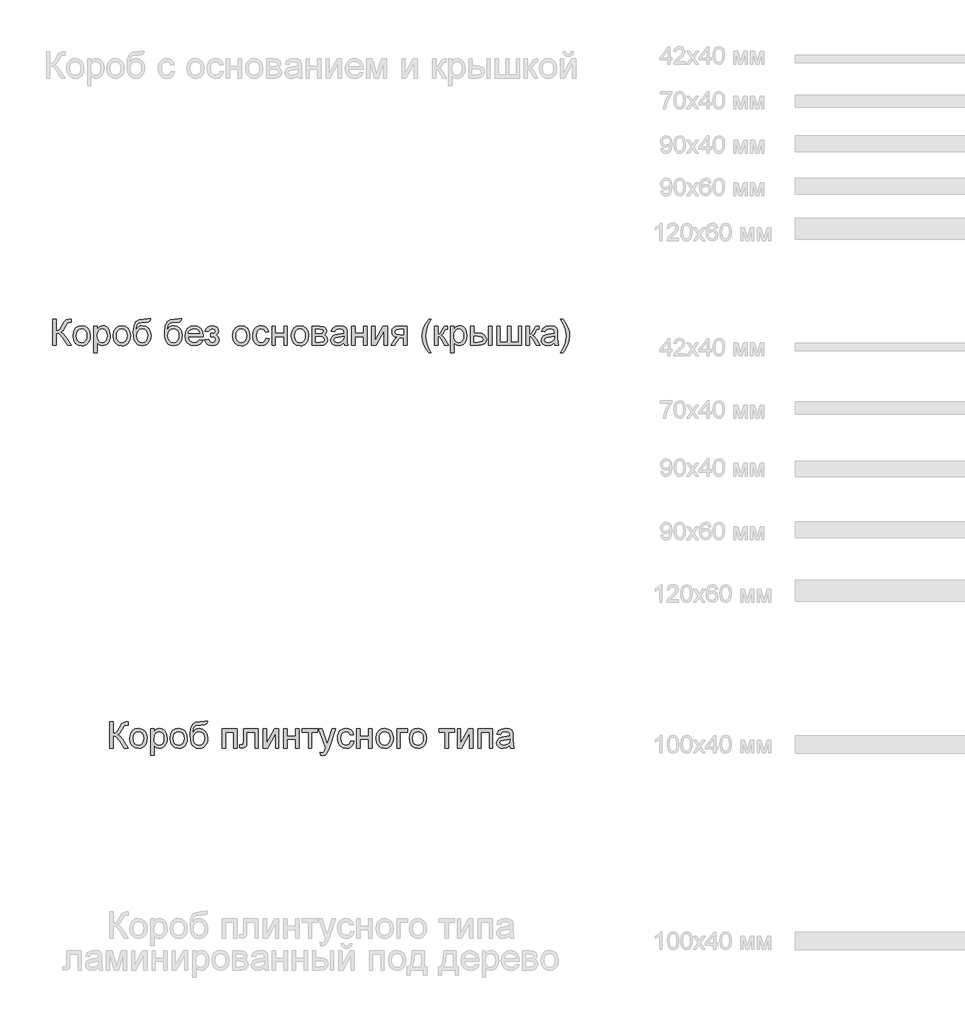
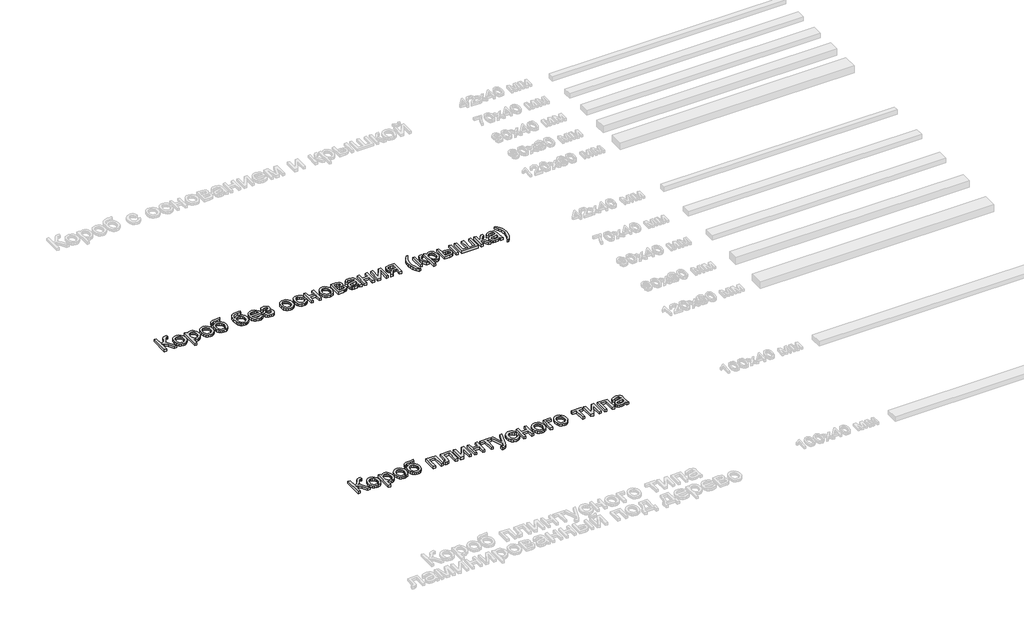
# One storey, part 5 of 21: 2 proxies.
"""IFC4 building model written with IfcOpenShell, lengths in millimetres."""

from ifc_helpers import new_model, si_unit, origin, origin_with_axes, place, context, project, spatial, polyline, outline, extrude, element, save

model = new_model("IFC4")

# Units and contexts
model_context = context("Model", 3, world=origin())
ifc_project = project(units=[si_unit("LENGTHUNIT", "METRE", prefix="MILLI")], contexts=[model_context])

# Site, building, storey
site = spatial("IfcSite", under=ifc_project)
building = spatial("IfcBuilding", under=site)
storey = spatial("IfcBuildingStorey", under=building, Name="Этаж 01", Elevation=0.0)

# Proxies
placement = place(None, origin())
element("IfcBuildingElementProxy", 1, Name="150 мм Arial", ObjectType="150 мм Arial", at=placement, inside=storey, context=model_context, shape_type="SweptSolid", body=[
    extrude(outline(polyline([(-2762.6946208, -3897.5845197), (-2743.8590626, -3897.5845197), (-2743.8590626, -3963.5089733), (-2731.1073529, -3962.262773), (-2722.7978184, -3958.5241722), (-2708.1009327, -3933.3058615), (-2697.7082663, -3912.2446172), (-2685.9360425, -3901.8151627), (-2669.1054412, -3897.5845197), (-2656.7446061, -3897.8052489), (-2656.7446061, -3916.6408071), (-2660.9016727, -3916.5304425), (-2665.0587392, -3916.4200779), (-2679.774019, -3920.9450264), (-2690.9576317, -3940.3324076), (-2704.293354, -3963.9504317), (-2717.2979825, -3971.74953), (-2702.7574467, -3980.2659981), (-2688.4192459, -3998.0163044), (-2656.7446061, -4048.268985), (-2678.5967967, -4048.268985), (-2705.3786059, -4005.8154027), (-2724.2325582, -3983.6505125), (-2732.9375659, -3979.1393595), (-2743.8590626, -3977.6356419), (-2743.8590626, -4048.268985), (-2762.6946208, -4048.268985), (-2762.6946208, -3897.5845197)])), origin_with_axes(), (0.0, 0.0, 1.0), 20.0),
    extrude(outline(polyline([(-2647.3268271, -3992.9395329), (-2643.252534, -3966.2588912), (-2631.0296547, -3947.5061065), (-2615.9280988, -3938.3182536), (-2597.8466987, -3935.255636), (-2578.0592459, -3938.9850398), (-2562.2541157, -3950.1732509), (-2551.893639, -3967.9373528), (-2548.4401468, -3991.3944285), (-2549.966857, -4010.4231247), (-2554.5469879, -4024.9084783), (-2562.0471821, -4035.7563986), (-2572.3340823, -4043.8727951), (-2584.5523631, -4048.9357711), (-2597.8466987, -4050.6234297), (-2617.8732748, -4046.9078216), (-2633.6600109, -4035.7609971), (-2643.910123, -4017.6244148), (-2647.3268271, -3992.9395329)]), holes=[polyline([(-2628.4912689, -3992.9027447), (-2626.3115681, -4009.9494766), (-2619.7724656, -4022.094181), (-2609.9316223, -4029.3644489), (-2597.8466987, -4031.7878716), (-2585.8169575, -4029.3506533), (-2575.9945082, -4022.0389987), (-2569.4554057, -4009.733346), (-2567.2757049, -3992.3141335), (-2569.4692013, -3975.7640422), (-2576.0496905, -3963.7848848), (-2585.8859353, -3956.5146168), (-2597.8466987, -3954.0911942), (-2609.9316223, -3956.5054198), (-2619.7724656, -3963.7480966), (-2626.3115681, -3975.8652098), (-2628.4912689, -3992.9027447)])]), origin_with_axes(), (0.0, 0.0, 1.0), 20.0),
    extrude(outline(polyline([(-2527.2501438, -4090.6489908), (-2527.2501438, -3937.6100808), (-2508.4145857, -3937.6100808), (-2508.4145857, -3956.077757), (-2495.3915631, -3940.4611663), (-2477.8068037, -3935.255636), (-2465.0688896, -3937.0766519), (-2453.9312622, -3942.5396995), (-2444.862971, -3951.3136851), (-2438.3330656, -3963.0675149), (-2433.0723531, -3992.0934043), (-2434.5576766, -4008.2020372), (-2439.0136473, -4022.6092158), (-2446.2977108, -4034.5837747), (-2456.2673129, -4043.3945485), (-2467.8785883, -4048.8162094), (-2480.0876721, -4050.6234297), (-2496.4768149, -4045.7857815), (-2508.4145857, -4033.5537051), (-2508.4145857, -4090.6489908), (-2527.2501438, -4090.6489908)]), holes=[polyline([(-2508.4145857, -3993.8224497), (-2506.3774391, -4010.7082332), (-2500.2659995, -4022.5172453), (-2491.2482921, -4029.470215), (-2480.4923423, -4031.7878716), (-2469.5616485, -4029.3874415), (-2460.3140148, -4022.1861515), (-2454.0094371, -4009.9448781), (-2451.9079112, -3992.4244981), (-2453.9588534, -3975.630685), (-2460.1116797, -3963.6561261), (-2469.1155916, -3956.4824272), (-2479.7197901, -3954.0911942), (-2490.3653753, -3956.6341785), (-2499.7141765, -3964.2631314), (-2506.2394834, -3976.7389295), (-2508.4145857, -3993.8224497)])]), origin_with_axes(), (0.0, 0.0, 1.0), 20.0),
    extrude(outline(polyline([(-2416.5912397, -3992.9395329), (-2412.5169466, -3966.2588912), (-2400.2940673, -3947.5061065), (-2385.1925114, -3938.3182536), (-2367.1111113, -3935.255636), (-2347.3236585, -3938.9850398), (-2331.5185283, -3950.1732509), (-2321.1580516, -3967.9373528), (-2317.7045594, -3991.3944285), (-2319.2312697, -4010.4231247), (-2323.8114005, -4024.9084783), (-2331.3115947, -4035.7563986), (-2341.598495, -4043.8727951), (-2353.8167757, -4048.9357711), (-2367.1111113, -4050.6234297), (-2387.1376875, -4046.9078216), (-2402.9244236, -4035.7609971), (-2413.1745357, -4017.6244148), (-2416.5912397, -3992.9395329)]), holes=[polyline([(-2397.7556815, -3992.9027447), (-2395.5759807, -4009.9494766), (-2389.0368783, -4022.094181), (-2379.1960349, -4029.3644489), (-2367.1111113, -4031.7878716), (-2355.0813701, -4029.3506533), (-2345.2589208, -4022.0389987), (-2338.7198184, -4009.733346), (-2336.5401175, -3992.3141335), (-2338.7336139, -3975.7640422), (-2345.3141031, -3963.7848848), (-2355.150348, -3956.5146168), (-2367.1111113, -3954.0911942), (-2379.1960349, -3956.5054198), (-2389.0368783, -3963.7480966), (-2395.5759807, -3975.8652098), (-2397.7556815, -3992.9027447)])]), origin_with_axes(), (0.0, 0.0, 1.0), 20.0),
    extrude(outline(polyline([(-2218.8178791, -3895.230075), (-2202.3367657, -3895.230075), (-2207.192808, -3909.9269607), (-2216.7945281, -3915.2428555), (-2239.8607292, -3916.4200779), (-2270.9283637, -3920.7610854), (-2278.0560774, -3926.408074), (-2282.8477403, -3934.6670248), (-2286.8760482, -3959.2783303), (-2270.5604817, -3941.2521126), (-2260.6414634, -3936.7547552), (-2249.5360257, -3935.255636), (-2229.9371124, -3939.0678132), (-2214.0354131, -3950.5043447), (-2203.495594, -3968.4431905), (-2199.9823209, -3991.7623105), (-2201.7251619, -4009.742543), (-2206.9536847, -4024.1727143), (-2223.4899804, -4043.7256423), (-2234.7839577, -4048.8989829), (-2249.5360257, -4050.6234297), (-2266.5367724, -4048.4023422), (-2279.279285, -4041.7390795), (-2288.6556773, -4031.6131276), (-2295.5580633, -4019.0039722), (-2299.8071003, -4000.0166628), (-2301.223446, -3970.7562486), (-2297.6503921, -3934.6164411), (-2286.9312305, -3912.575711), (-2268.7992467, -3901.3323176), (-2242.9877262, -3897.5845197), (-2222.0184524, -3897.1614554), (-2218.8178791, -3895.230075)]), holes=[polyline([(-2218.8178791, -3991.1736993), (-2220.8596242, -3976.3526534), (-2226.9848594, -3964.4838605), (-2236.8257027, -3956.6893608), (-2250.0142723, -3954.0911942), (-2263.7638618, -3956.8365136), (-2273.9633902, -3965.0724717), (-2280.2817634, -3977.8977578), (-2282.3878879, -3994.4110609), (-2280.0610342, -4010.4185262), (-2273.0804734, -4022.1677574), (-2262.687807, -4029.382843), (-2250.1246369, -4031.7878716), (-2237.4970874, -4029.005764), (-2227.4998942, -4020.6594412), (-2220.9883829, -4007.7237906), (-2218.8178791, -3991.1736993)])]), origin_with_axes(), (0.0, 0.0, 1.0), 20.0),
    extrude(outline(polyline([(-2039.8800766, -3895.230075), (-2023.3989632, -3895.230075), (-2028.2550056, -3909.9269607), (-2037.8567257, -3915.2428555), (-2060.9229268, -3916.4200779), (-2091.9905612, -3920.7610854), (-2099.1182749, -3926.408074), (-2103.9099379, -3934.6670248), (-2107.9382457, -3959.2783303), (-2091.6226793, -3941.2521126), (-2081.703661, -3936.7547552), (-2070.5982232, -3935.255636), (-2050.9993099, -3939.0678132), (-2035.0976107, -3950.5043447), (-2024.5577915, -3968.4431905), (-2021.0445185, -3991.7623105), (-2022.7873594, -4009.742543), (-2028.0158823, -4024.1727143), (-2044.552178, -4043.7256423), (-2055.8461552, -4048.8989829), (-2070.5982232, -4050.6234297), (-2087.5989699, -4048.4023422), (-2100.3414825, -4041.7390795), (-2109.7178749, -4031.6131276), (-2116.6202608, -4019.0039722), (-2120.8692979, -4000.0166628), (-2122.2856435, -3970.7562486), (-2118.7125897, -3934.6164411), (-2107.993428, -3912.575711), (-2089.8614442, -3901.3323176), (-2064.0499237, -3897.5845197), (-2043.08065, -3897.1614554), (-2039.8800766, -3895.230075)]), holes=[polyline([(-2039.8800766, -3991.1736993), (-2041.9218217, -3976.3526534), (-2048.0470569, -3964.4838605), (-2057.8879003, -3956.6893608), (-2071.0764698, -3954.0911942), (-2084.8260594, -3956.8365136), (-2095.0255877, -3965.0724717), (-2101.343961, -3977.8977578), (-2103.4500854, -3994.4110609), (-2101.1232318, -4010.4185262), (-2094.1426709, -4022.1677574), (-2083.7500046, -4029.382843), (-2071.1868344, -4031.7878716), (-2058.5592849, -4029.005764), (-2048.5620917, -4020.6594412), (-2042.0505804, -4007.7237906), (-2039.8800766, -3991.1736993)])]), origin_with_axes(), (0.0, 0.0, 1.0), 20.0),
    extrude(outline(polyline([(-1920.0241226, -4015.3067582), (-1901.5564464, -4017.661203), (-1908.210512, -4031.5763394), (-1918.8285061, -4041.9782028), (-1933.1713054, -4048.462123), (-1950.9997866, -4050.6234297), (-1973.1002975, -4046.894026), (-1990.1056427, -4035.7058148), (-2000.9489645, -4017.7853631), (-2004.5634051, -3993.8592379), (-2000.9121763, -3969.1283707), (-1989.9584899, -3950.6331034), (-1973.1830709, -3939.1000029), (-1952.0666444, -3935.255636), (-1931.6078069, -3939.0908058), (-1915.2600508, -3950.5963152), (-1904.5408891, -3969.0547943), (-1900.9678353, -3993.7488733), (-1901.0781998, -3998.8256448), (-1985.7278469, -3998.8256448), (-1982.4674928, -4012.9247223), (-1974.8937222, -4023.2897975), (-1963.9630284, -4029.663353), (-1950.6319046, -4031.7878716), (-1932.1642284, -4027.8515342), (-1920.0241226, -4015.3067582)]), holes=[polyline([(-1985.7278469, -3979.9900866), (-1919.8033934, -3979.9900866), (-1922.3509762, -3970.0388787), (-1927.3449743, -3962.9203621), (-1938.3262519, -3956.2984862), (-1952.1402208, -3954.0911942), (-1964.8367481, -3955.8524292), (-1975.3351806, -3961.1361344), (-1982.6330397, -3969.3720926), (-1985.7278469, -3979.9900866)])]), origin_with_axes(), (0.0, 0.0, 1.0), 20.0),
    extrude(outline(polyline([(-1856.2333846, -3998.8256448), (-1856.2333846, -3979.9900866), (-1841.370952, -3979.2543227), (-1833.8661593, -3975.3363794), (-1830.3344922, -3967.151005), (-1835.0617758, -3957.6412554), (-1847.257064, -3954.0911942), (-1859.8570223, -3957.6228613), (-1868.0056085, -3968.2178628), (-1889.1956114, -3965.863418), (-1883.5762139, -3952.4725134), (-1875.0321546, -3942.9075815), (-1863.5634334, -3937.1686224), (-1849.1700503, -3935.255636), (-1833.4247009, -3937.5870882), (-1821.5053243, -3944.5814446), (-1814.0005316, -3954.8131626), (-1811.498934, -3966.8566994), (-1815.0581923, -3978.5553469), (-1825.7359672, -3987.6052439), (-1813.2831617, -3999.3406796), (-1809.1444893, -4016.2264632), (-1811.770247, -4030.0910159), (-1819.6475202, -4041.0768919), (-1832.24288, -4048.2367953), (-1849.0228975, -4050.6234297), (-1865.435033, -4048.4161377), (-1877.9936047, -4041.7942618), (-1886.6986124, -4030.757802), (-1891.5500562, -4015.3067582), (-1870.3600533, -4012.9523134), (-1861.8619792, -4026.8582528), (-1847.2202758, -4031.7878716), (-1833.4614891, -4027.0605879), (-1827.9800474, -4014.9756644), (-1831.3829559, -4005.0796387), (-1838.6302312, -3999.782138), (-1852.5545647, -3998.7152802), (-1856.2333846, -3998.8256448)])), origin_with_axes(), (0.0, 0.0, 1.0), 20.0),
    extrude(outline(polyline([(-1731.4478119, -3992.9395329), (-1727.3735188, -3966.2588912), (-1715.1506395, -3947.5061065), (-1700.0490836, -3938.3182536), (-1681.9676835, -3935.255636), (-1662.1802307, -3938.9850398), (-1646.3751005, -3950.1732509), (-1636.0146238, -3967.9373528), (-1632.5611316, -3991.3944285), (-1634.0878419, -4010.4231247), (-1638.6679727, -4024.9084783), (-1646.1681669, -4035.7563986), (-1656.4550672, -4043.8727951), (-1668.6733479, -4048.9357711), (-1681.9676835, -4050.6234297), (-1701.9942596, -4046.9078216), (-1717.7809958, -4035.7609971), (-1728.0311078, -4017.6244148), (-1731.4478119, -3992.9395329)]), holes=[polyline([(-1712.6122537, -3992.9027447), (-1710.4325529, -4009.9494766), (-1703.8934504, -4022.094181), (-1694.0526071, -4029.3644489), (-1681.9676835, -4031.7878716), (-1669.9379423, -4029.3506533), (-1660.115493, -4022.0389987), (-1653.5763905, -4009.733346), (-1651.3966897, -3992.3141335), (-1653.5901861, -3975.7640422), (-1660.1706753, -3963.7848848), (-1670.0069202, -3956.5146168), (-1681.9676835, -3954.0911942), (-1694.0526071, -3956.5054198), (-1703.8934504, -3963.7480966), (-1710.4325529, -3975.8652098), (-1712.6122537, -3992.9027447)])]), origin_with_axes(), (0.0, 0.0, 1.0), 20.0),
    extrude(outline(polyline([(-1540.7377856, -4008.2434239), (-1521.9022274, -4010.5978686), (-1527.1537429, -4027.350295), (-1537.0221774, -4040.0100342), (-1550.5786289, -4047.9700808), (-1566.8941954, -4050.6234297), (-1586.9299686, -4046.9216171), (-1602.5971431, -4035.8161794), (-1612.7092994, -4017.7945602), (-1616.0800182, -3993.3442031), (-1614.6406799, -3976.5825797), (-1610.322665, -3962.0558394), (-1603.0569956, -3950.3250023), (-1592.7746938, -3941.9510883), (-1580.4736396, -3936.9294991), (-1567.1517128, -3935.255636), (-1551.236218, -3937.5548985), (-1538.5120995, -3944.4526859), (-1529.3840275, -3955.5811163), (-1524.2566722, -3970.5723076), (-1543.0922303, -3972.9267523), (-1551.8294277, -3958.8184778), (-1567.00456, -3954.0911942), (-1579.1768555, -3956.4180478), (-1588.8383564, -3963.3986087), (-1595.1429341, -3975.4099558), (-1597.24446, -3992.8291683), (-1595.1889194, -4010.4829055), (-1589.0222974, -4022.5356394), (-1579.5355405, -4029.4748135), (-1567.5195948, -4031.7878716), (-1557.7661234, -4030.3439347), (-1549.7692886, -4026.0121242), (-1543.9521545, -4018.6820755), (-1540.7377856, -4008.2434239)])), origin_with_axes(), (0.0, 0.0, 1.0), 20.0),
    extrude(outline(polyline([(-1505.421114, -3937.6100808), (-1486.5855559, -3937.6100808), (-1486.5855559, -3979.9900866), (-1437.1422157, -3979.9900866), (-1437.1422157, -3937.6100808), (-1418.3066576, -3937.6100808), (-1418.3066576, -4048.268985), (-1437.1422157, -4048.268985), (-1437.1422157, -3998.8256448), (-1486.5855559, -3998.8256448), (-1486.5855559, -4048.268985), (-1505.421114, -4048.268985), (-1505.421114, -3937.6100808)])), origin_with_axes(), (0.0, 0.0, 1.0), 20.0),
    extrude(outline(polyline([(-1394.7622099, -3992.9395329), (-1390.6879168, -3966.2588912), (-1378.4650375, -3947.5061065), (-1363.3634816, -3938.3182536), (-1345.2820815, -3935.255636), (-1325.4946287, -3938.9850398), (-1309.6894985, -3950.1732509), (-1299.3290218, -3967.9373528), (-1295.8755296, -3991.3944285), (-1297.4022399, -4010.4231247), (-1301.9823707, -4024.9084783), (-1309.4825649, -4035.7563986), (-1319.7694652, -4043.8727951), (-1331.9877459, -4048.9357711), (-1345.2820815, -4050.6234297), (-1365.3086576, -4046.9078216), (-1381.0953938, -4035.7609971), (-1391.3455059, -4017.6244148), (-1394.7622099, -3992.9395329)]), holes=[polyline([(-1375.9266517, -3992.9027447), (-1373.7469509, -4009.9494766), (-1367.2078484, -4022.094181), (-1357.3670051, -4029.3644489), (-1345.2820815, -4031.7878716), (-1333.2523403, -4029.3506533), (-1323.429891, -4022.0389987), (-1316.8907886, -4009.733346), (-1314.7110877, -3992.3141335), (-1316.9045841, -3975.7640422), (-1323.4850733, -3963.7848848), (-1333.3213182, -3956.5146168), (-1345.2820815, -3954.0911942), (-1357.3670051, -3956.5054198), (-1367.2078484, -3963.7480966), (-1373.7469509, -3975.8652098), (-1375.9266517, -3992.9027447)])]), origin_with_axes(), (0.0, 0.0, 1.0), 20.0),
    extrude(outline(polyline([(-1274.6855267, -3937.6100808), (-1233.1884376, -3937.6100808), (-1210.4349362, -3940.1300725), (-1197.6326428, -3949.3639105), (-1192.2799597, -3965.4587478), (-1195.5173213, -3978.5369528), (-1205.2661942, -3987.8627613), (-1192.6110535, -3998.0714867), (-1187.5710702, -4015.821793), (-1190.7624465, -4030.1783878), (-1198.3500127, -4040.2859457), (-1210.3613598, -4046.2732251), (-1226.8240791, -4048.268985), (-1274.6855267, -4048.268985), (-1274.6855267, -3937.6100808)]), holes=[polyline([(-1255.8499685, -3979.9900866), (-1237.2351396, -3979.9900866), (-1221.8760663, -3979.0335935), (-1214.4080618, -3975.2076207), (-1211.1155179, -3968.2914392), (-1212.5594547, -3962.6720417), (-1216.8912652, -3959.0576011), (-1236.6465284, -3956.445639), (-1255.8499685, -3956.445639), (-1255.8499685, -3979.9900866)]), polyline([(-1255.8499685, -4029.4334268), (-1232.7469792, -4029.4334268), (-1212.2559521, -4026.0305183), (-1208.0161121, -4021.3906067), (-1206.4066284, -4014.2766886), (-1209.6255958, -4005.2083974), (-1218.0133053, -3999.9292908), (-1234.5863892, -3998.8256448), (-1255.8499685, -3998.8256448), (-1255.8499685, -4029.4334268)])]), origin_with_axes(), (0.0, 0.0, 1.0), 20.0),
    extrude(outline(polyline([(-1093.3932794, -4034.1423163), (-1111.6586205, -4046.9078216), (-1131.8369479, -4050.6234297), (-1147.5776988, -4048.3885466), (-1159.1889743, -4041.6838972), (-1166.3488776, -4031.502763), (-1168.7355121, -4018.8384253), (-1165.1302685, -4003.9392045), (-1155.6573071, -3993.1234739), (-1142.4687376, -3986.9430564), (-1126.1715652, -3984.110365), (-1093.503644, -3977.6356419), (-1093.3932794, -3973.4417871), (-1094.6900635, -3965.0356835), (-1098.5804156, -3959.5358477), (-1107.2808248, -3955.4523576), (-1119.4025365, -3954.0911942), (-1138.4588238, -3957.7148318), (-1147.5455091, -3970.5723076), (-1166.3810673, -3968.2178628), (-1158.2324811, -3949.823763), (-1141.8249441, -3939.0448206), (-1116.9745153, -3935.255636), (-1094.1474375, -3938.6033622), (-1081.2531736, -3947.0094658), (-1075.4774263, -3959.7933651), (-1074.5577213, -3976.2744785), (-1074.5577213, -3999.7085616), (-1073.6012281, -4032.4316651), (-1069.8488317, -4048.268985), (-1088.6843899, -4048.268985), (-1093.3932794, -4034.1423163)]), holes=[polyline([(-1093.3932794, -3996.4712), (-1123.7803322, -4002.2469474), (-1139.9855341, -4005.3003679), (-1147.3247799, -4010.2667748), (-1149.8999539, -4017.5140502), (-1144.2897535, -4027.7043814), (-1127.8270342, -4031.7878716), (-1108.7707468, -4027.2813171), (-1096.4834882, -4016.373616), (-1093.503644, -4001.805489), (-1093.3932794, -3996.4712)])]), origin_with_axes(), (0.0, 0.0, 1.0), 20.0),
    extrude(outline(polyline([(-1048.6588288, -3937.6100808), (-1029.8232707, -3937.6100808), (-1029.8232707, -3979.9900866), (-980.3799305, -3979.9900866), (-980.3799305, -3937.6100808), (-961.5443724, -3937.6100808), (-961.5443724, -4048.268985), (-980.3799305, -4048.268985), (-980.3799305, -3998.8256448), (-1029.8232707, -3998.8256448), (-1029.8232707, -4048.268985), (-1048.6588288, -4048.268985), (-1048.6588288, -3937.6100808)])), origin_with_axes(), (0.0, 0.0, 1.0), 20.0),
    extrude(outline(polyline([(-933.2910351, -3937.6100808), (-914.455477, -3937.6100808), (-914.455477, -4022.0022105), (-868.175922, -3937.6100808), (-843.8221339, -3937.6100808), (-843.8221339, -4048.268985), (-862.6576921, -4048.268985), (-862.6576921, -3964.3918901), (-908.6429415, -4048.268985), (-933.2910351, -4048.268985), (-933.2910351, -3937.6100808)])), origin_with_axes(), (0.0, 0.0, 1.0), 20.0),
    extrude(outline(polyline([(-730.808785, -3937.6100808), (-730.808785, -4048.268985), (-749.6443431, -4048.268985), (-749.6443431, -4005.8889791), (-759.9082508, -4005.8889791), (-773.8877666, -4008.2802121), (-787.0211539, -4024.3566553), (-802.0307393, -4048.268985), (-823.8093534, -4048.268985), (-804.9002188, -4018.0290849), (-796.5492975, -4007.1765661), (-788.8605638, -4002.357312), (-801.7364337, -3998.4117776), (-810.7863307, -3990.9161819), (-816.1390138, -3980.9465798), (-817.9232415, -3969.5790262), (-815.4860232, -3956.6847623), (-808.1743686, -3946.4760369), (-796.2457949, -3939.8265698), (-779.9578195, -3937.6100808), (-730.808785, -3937.6100808)]), holes=[polyline([(-749.6443431, -3956.445639), (-774.4763778, -3956.445639), (-787.3016639, -3957.5354894), (-794.5811289, -3960.8050406), (-799.0876833, -3971.013766), (-797.4276158, -3978.1920634), (-792.4474133, -3983.1722659), (-768.9213597, -3987.053421), (-749.6443431, -3987.053421), (-749.6443431, -3956.445639)])]), origin_with_axes(), (0.0, 0.0, 1.0), 20.0),
    extrude(outline(polyline([(-606.0232122, -4090.6489908), (-620.6189304, -4070.1671607), (-632.7682333, -4046.4663632), (-640.9628047, -4020.6962294), (-643.6943285, -3994.0063907), (-641.6525835, -3970.5998987), (-635.5273482, -3948.2050823), (-623.3688483, -3922.8396187), (-606.0232122, -3897.5845197), (-591.8965436, -3897.5845197), (-609.5180912, -3927.4197495), (-620.1130926, -3956.3352744), (-624.8587704, -3994.1167553), (-622.7986312, -4018.2636097), (-616.6182137, -4042.4012671), (-606.3175178, -4066.5297275), (-591.8965436, -4090.6489908), (-606.0232122, -4090.6489908)])), origin_with_axes(), (0.0, 0.0, 1.0), 20.0),
    extrude(outline(polyline([(-573.0609855, -3937.6100808), (-554.2254273, -3937.6100808), (-554.2254273, -3984.6989762), (-541.6070749, -3981.3144618), (-531.2695908, -3961.5959869), (-522.6795462, -3944.5814446), (-515.1011771, -3939.0448206), (-501.3239964, -3937.6100808), (-497.7187528, -3937.6100808), (-497.7187528, -3956.5560036), (-502.7955244, -3956.445639), (-511.9925743, -3958.4322017), (-518.4672974, -3970.829825), (-526.0640606, -3984.2391237), (-536.7142443, -3990.8058173), (-524.8316559, -3998.1358661), (-513.1697966, -4013.5777128), (-493.0098633, -4048.268985), (-514.4205954, -4048.268985), (-534.1758586, -4014.3134768), (-544.1086724, -3999.9476849), (-554.2254273, -3996.4712), (-554.2254273, -4048.268985), (-573.0609855, -4048.268985), (-573.0609855, -3937.6100808)])), origin_with_axes(), (0.0, 0.0, 1.0), 20.0),
    extrude(outline(polyline([(-481.2376395, -4090.6489908), (-481.2376395, -3937.6100808), (-462.4020813, -3937.6100808), (-462.4020813, -3956.077757), (-449.3790587, -3940.4611663), (-431.7942993, -3935.255636), (-419.0563852, -3937.0766519), (-407.9187578, -3942.5396995), (-398.8504666, -3951.3136851), (-392.3205612, -3963.0675149), (-387.0598487, -3992.0934043), (-388.5451723, -4008.2020372), (-393.0011429, -4022.6092158), (-400.2852064, -4034.5837747), (-410.2548085, -4043.3945485), (-421.866084, -4048.8162094), (-434.0751677, -4050.6234297), (-450.4643106, -4045.7857815), (-462.4020813, -4033.5537051), (-462.4020813, -4090.6489908), (-481.2376395, -4090.6489908)]), holes=[polyline([(-462.4020813, -3993.8224497), (-460.3649348, -4010.7082332), (-454.2534951, -4022.5172453), (-445.2357877, -4029.470215), (-434.4798379, -4031.7878716), (-423.5491441, -4029.3874415), (-414.3015104, -4022.1861515), (-407.9969328, -4009.9448781), (-405.8954069, -3992.4244981), (-407.946349, -3975.630685), (-414.0991753, -3963.6561261), (-423.1030872, -3956.4824272), (-433.7072857, -3954.0911942), (-444.3528709, -3956.6341785), (-453.7016721, -3964.2631314), (-460.226979, -3976.7389295), (-462.4020813, -3993.8224497)])]), origin_with_axes(), (0.0, 0.0, 1.0), 20.0),
    extrude(outline(polyline([(-262.2742759, -3937.6100808), (-243.4387178, -3937.6100808), (-243.4387178, -4048.268985), (-262.2742759, -4048.268985), (-262.2742759, -3937.6100808)])), origin_with_axes(), (0.0, 0.0, 1.0), 20.0),
    extrude(outline(polyline([(-365.8698458, -3937.6100808), (-347.0342876, -3937.6100808), (-347.0342876, -3977.6356419), (-323.7473573, -3977.6356419), (-303.6196137, -3979.9946852), (-288.7065973, -3987.0718151), (-279.4773577, -3998.2968144), (-276.4009446, -4013.0994662), (-278.980717, -4026.5777428), (-286.7200345, -4037.949895), (-300.1247347, -4045.6892125), (-319.7006554, -4048.268985), (-365.8698458, -4048.268985), (-365.8698458, -3937.6100808)]), holes=[polyline([(-347.0342876, -4029.4334268), (-327.6836947, -4029.4334268), (-302.7045072, -4025.4786953), (-297.1035038, -4020.4157194), (-295.2365027, -4013.1362544), (-300.7731267, -4001.5479716), (-309.6528784, -3997.7403929), (-325.2188853, -3996.4712), (-347.0342876, -3996.4712), (-347.0342876, -4029.4334268)])]), origin_with_axes(), (0.0, 0.0, 1.0), 20.0),
    extrude(outline(polyline([(-215.1853806, -3937.6100808), (-196.3498224, -3937.6100808), (-196.3498224, -4029.4334268), (-153.9698166, -4029.4334268), (-153.9698166, -3937.6100808), (-135.1342584, -3937.6100808), (-135.1342584, -4029.4334268), (-92.7542526, -4029.4334268), (-92.7542526, -3937.6100808), (-73.9186944, -3937.6100808), (-73.9186944, -4048.268985), (-215.1853806, -4048.268985), (-215.1853806, -3937.6100808)])), origin_with_axes(), (0.0, 0.0, 1.0), 20.0),
    extrude(outline(polyline([(-48.0198019, -3937.6100808), (-29.1842438, -3937.6100808), (-29.1842438, -3984.6989762), (-16.5658914, -3981.3144618), (-6.2284073, -3961.5959869), (2.3616373, -3944.5814446), (9.9400064, -3939.0448206), (23.7171871, -3937.6100808), (27.3224307, -3937.6100808), (27.3224307, -3956.5560036), (22.2456591, -3956.445639), (13.0486093, -3958.4322017), (6.5738861, -3970.829825), (-1.0228771, -3984.2391237), (-11.6730608, -3990.8058173), (0.2095276, -3998.1358661), (11.8713869, -4013.5777128), (32.0313202, -4048.268985), (10.6205881, -4048.268985), (-9.1346751, -4014.3134768), (-19.0674889, -3999.9476849), (-29.1842438, -3996.4712), (-29.1842438, -4048.268985), (-48.0198019, -4048.268985), (-48.0198019, -3937.6100808)])), origin_with_axes(), (0.0, 0.0, 1.0), 20.0),
    extrude(outline(polyline([(114.4368871, -4034.1423163), (96.1715461, -4046.9078216), (75.9932186, -4050.6234297), (60.2524678, -4048.3885466), (48.6411923, -4041.6838972), (41.481289, -4031.502763), (39.0946545, -4018.8384253), (42.6998981, -4003.9392045), (52.1728594, -3993.1234739), (65.361429, -3986.9430564), (81.6586014, -3984.110365), (114.3265225, -3977.6356419), (114.4368871, -3973.4417871), (113.1401031, -3965.0356835), (109.249751, -3959.5358477), (100.5493418, -3955.4523576), (88.4276301, -3954.0911942), (69.3713427, -3957.7148318), (60.2846574, -3970.5723076), (41.4490993, -3968.2178628), (49.5976855, -3949.823763), (66.0052225, -3939.0448206), (90.8556512, -3935.255636), (113.682729, -3938.6033622), (126.576993, -3947.0094658), (132.3527403, -3959.7933651), (133.2724453, -3976.2744785), (133.2724453, -3999.7085616), (134.2289385, -4032.4316651), (137.9813348, -4048.268985), (119.1457767, -4048.268985), (114.4368871, -4034.1423163)]), holes=[polyline([(114.4368871, -3996.4712), (84.0498343, -4002.2469474), (67.8446324, -4005.3003679), (60.5053866, -4010.2667748), (57.9302127, -4017.5140502), (63.5404131, -4027.7043814), (80.0031324, -4031.7878716), (99.0594197, -4027.2813171), (111.3466784, -4016.373616), (114.3265225, -4001.805489), (114.4368871, -3996.4712)])]), origin_with_axes(), (0.0, 0.0, 1.0), 20.0),
    extrude(outline(polyline([(163.8802273, -4090.6489908), (149.7535587, -4090.6489908), (164.1745329, -4066.5297275), (174.4752287, -4042.4012671), (180.6556463, -4018.2636097), (182.7157854, -3994.1167553), (177.9701077, -3956.6663682), (167.4854708, -3927.7140551), (149.7535587, -3897.5845197), (163.8802273, -3897.5845197), (181.2258633, -3922.8396187), (193.3843633, -3948.2050823), (199.5095985, -3970.5998987), (201.5513436, -3994.0063907), (198.8060242, -4020.6962294), (190.570066, -4046.4663632), (178.4069676, -4070.1671607), (163.8802273, -4090.6489908)])), origin_with_axes(), (0.0, 0.0, 1.0), 20.0),
])
element("IfcBuildingElementProxy", 2, Name="150 мм Arial", ObjectType="150 мм Arial", at=placement, inside=storey, context=model_context, shape_type="SweptSolid", body=[
    extrude(outline(polyline([(-2436.6040202, -6206.5845197), (-2417.7684621, -6206.5845197), (-2417.7684621, -6272.5089733), (-2405.0167524, -6271.262773), (-2396.7072179, -6267.5241722), (-2382.0103321, -6242.3058615), (-2371.6176658, -6221.2446172), (-2359.8454419, -6210.8151627), (-2343.0148407, -6206.5845197), (-2330.6540056, -6206.8052489), (-2330.6540056, -6225.6408071), (-2334.8110722, -6225.5304425), (-2338.9681387, -6225.4200779), (-2353.6834185, -6229.9450264), (-2364.8670312, -6249.3324076), (-2378.2027535, -6272.9504317), (-2391.207382, -6280.74953), (-2376.6668462, -6289.2659981), (-2362.3286454, -6307.0163044), (-2330.6540056, -6357.268985), (-2352.5061961, -6357.268985), (-2379.2880054, -6314.8154027), (-2398.1419576, -6292.6505125), (-2406.8469653, -6288.1393595), (-2417.7684621, -6286.6356419), (-2417.7684621, -6357.268985), (-2436.6040202, -6357.268985), (-2436.6040202, -6206.5845197)])), origin_with_axes(), (0.0, 0.0, 1.0), 20.0),
    extrude(outline(polyline([(-2321.2362265, -6301.9395329), (-2317.1619334, -6275.2588912), (-2304.9390542, -6256.5061065), (-2289.8374983, -6247.3182536), (-2271.7560982, -6244.255636), (-2251.9686454, -6247.9850398), (-2236.1635152, -6259.1732509), (-2225.8030385, -6276.9373528), (-2222.3495462, -6300.3944285), (-2223.8762565, -6319.4231247), (-2228.4563874, -6333.9084783), (-2235.9565815, -6344.7563986), (-2246.2434818, -6352.8727951), (-2258.4617626, -6357.9357711), (-2271.7560982, -6359.6234297), (-2291.7826743, -6355.9078216), (-2307.5694104, -6344.7609971), (-2317.8195225, -6326.6244148), (-2321.2362265, -6301.9395329)]), holes=[polyline([(-2302.4006684, -6301.9027447), (-2300.2209676, -6318.9494766), (-2293.6818651, -6331.094181), (-2283.8410217, -6338.3644489), (-2271.7560982, -6340.7878716), (-2259.7263569, -6338.3506533), (-2249.9039077, -6331.0389987), (-2243.3648052, -6318.733346), (-2241.1851044, -6301.3141335), (-2243.3786008, -6284.7640422), (-2249.95909, -6272.7848848), (-2259.7953348, -6265.5146168), (-2271.7560982, -6263.0911942), (-2283.8410217, -6265.5054198), (-2293.6818651, -6272.7480966), (-2300.2209676, -6284.8652098), (-2302.4006684, -6301.9027447)])]), origin_with_axes(), (0.0, 0.0, 1.0), 20.0),
    extrude(outline(polyline([(-2201.1595433, -6399.6489908), (-2201.1595433, -6246.6100808), (-2182.3239852, -6246.6100808), (-2182.3239852, -6265.077757), (-2169.3009625, -6249.4611663), (-2151.7162032, -6244.255636), (-2138.9782891, -6246.0766519), (-2127.8406617, -6251.5396995), (-2118.7723705, -6260.3136851), (-2112.2424651, -6272.0675149), (-2106.9817526, -6301.0934043), (-2108.4670761, -6317.2020372), (-2112.9230468, -6331.6092158), (-2120.2071103, -6343.5837747), (-2130.1767123, -6352.3945485), (-2141.7879878, -6357.8162094), (-2153.9970715, -6359.6234297), (-2170.3862144, -6354.7857815), (-2182.3239852, -6342.5537051), (-2182.3239852, -6399.6489908), (-2201.1595433, -6399.6489908)]), holes=[polyline([(-2182.3239852, -6302.8224497), (-2180.2868386, -6319.7082332), (-2174.175399, -6331.5172453), (-2165.1576916, -6338.470215), (-2154.4017417, -6340.7878716), (-2143.4710479, -6338.3874415), (-2134.2234143, -6331.1861515), (-2127.9188366, -6318.9448781), (-2125.8173107, -6301.4244981), (-2127.8682528, -6284.630685), (-2134.0210792, -6272.6561261), (-2143.024991, -6265.4824272), (-2153.6291895, -6263.0911942), (-2164.2747748, -6265.6341785), (-2173.623576, -6273.2631314), (-2180.1488829, -6285.7389295), (-2182.3239852, -6302.8224497)])]), origin_with_axes(), (0.0, 0.0, 1.0), 20.0),
    extrude(outline(polyline([(-2090.5006392, -6301.9395329), (-2086.4263461, -6275.2588912), (-2074.2034668, -6256.5061065), (-2059.1019109, -6247.3182536), (-2041.0205108, -6244.255636), (-2021.233058, -6247.9850398), (-2005.4279278, -6259.1732509), (-1995.0674511, -6276.9373528), (-1991.6139589, -6300.3944285), (-1993.1406691, -6319.4231247), (-1997.7208, -6333.9084783), (-2005.2209942, -6344.7563986), (-2015.5078944, -6352.8727951), (-2027.7261752, -6357.9357711), (-2041.0205108, -6359.6234297), (-2061.0470869, -6355.9078216), (-2076.833823, -6344.7609971), (-2087.0839351, -6326.6244148), (-2090.5006392, -6301.9395329)]), holes=[polyline([(-2071.665081, -6301.9027447), (-2069.4853802, -6318.9494766), (-2062.9462777, -6331.094181), (-2053.1054344, -6338.3644489), (-2041.0205108, -6340.7878716), (-2028.9907696, -6338.3506533), (-2019.1683203, -6331.0389987), (-2012.6292178, -6318.733346), (-2010.449517, -6301.3141335), (-2012.6430134, -6284.7640422), (-2019.2235026, -6272.7848848), (-2029.0597474, -6265.5146168), (-2041.0205108, -6263.0911942), (-2053.1054344, -6265.5054198), (-2062.9462777, -6272.7480966), (-2069.4853802, -6284.8652098), (-2071.665081, -6301.9027447)])]), origin_with_axes(), (0.0, 0.0, 1.0), 20.0),
    extrude(outline(polyline([(-1892.7272786, -6204.230075), (-1876.2461652, -6204.230075), (-1881.1022075, -6218.9269607), (-1890.7039276, -6224.2428555), (-1913.7701287, -6225.4200779), (-1944.8377632, -6229.7610854), (-1951.9654768, -6235.408074), (-1956.7571398, -6243.6670248), (-1960.7854477, -6268.2783303), (-1944.4698812, -6250.2521126), (-1934.5508629, -6245.7547552), (-1923.4454252, -6244.255636), (-1903.8465119, -6248.0678132), (-1887.9448126, -6259.5043447), (-1877.4049935, -6277.4431905), (-1873.8917204, -6300.7623105), (-1875.6345614, -6318.742543), (-1880.8630842, -6333.1727143), (-1897.3993799, -6352.7256423), (-1908.6933572, -6357.8989829), (-1923.4454252, -6359.6234297), (-1940.4461719, -6357.4023422), (-1953.1886845, -6350.7390795), (-1962.5650768, -6340.6131276), (-1969.4674628, -6328.0039722), (-1973.7164998, -6309.0166628), (-1975.1328455, -6279.7562486), (-1971.5597916, -6243.6164411), (-1960.84063, -6221.575711), (-1942.7086461, -6210.3323176), (-1916.8971256, -6206.5845197), (-1895.9278519, -6206.1614554), (-1892.7272786, -6204.230075)]), holes=[polyline([(-1892.7272786, -6300.1736993), (-1894.7690236, -6285.3526534), (-1900.8942589, -6273.4838605), (-1910.7351022, -6265.6893608), (-1923.9236718, -6263.0911942), (-1937.6732613, -6265.8365136), (-1947.8727896, -6274.0724717), (-1954.1911629, -6286.8977578), (-1956.2972873, -6303.4110609), (-1953.9704337, -6319.4185262), (-1946.9898728, -6331.1677574), (-1936.5972065, -6338.382843), (-1924.0340363, -6340.7878716), (-1911.4064869, -6338.005764), (-1901.4092936, -6329.6594412), (-1894.8977823, -6316.7237906), (-1892.7272786, -6300.1736993)])]), origin_with_axes(), (0.0, 0.0, 1.0), 20.0),
    extrude(outline(polyline([(-1791.4861535, -6246.6100808), (-1706.7261418, -6246.6100808), (-1706.7261418, -6357.268985), (-1725.5617, -6357.268985), (-1725.5617, -6265.445639), (-1772.6505953, -6265.445639), (-1772.6505953, -6357.268985), (-1791.4861535, -6357.268985), (-1791.4861535, -6246.6100808)])), origin_with_axes(), (0.0, 0.0, 1.0), 20.0),
    extrude(outline(polyline([(-1669.0550255, -6246.6100808), (-1584.2950138, -6246.6100808), (-1584.2950138, -6357.1586204), (-1603.130572, -6357.1586204), (-1603.130572, -6265.445639), (-1650.2194673, -6265.445639), (-1650.2194673, -6318.2367053), (-1651.4886602, -6342.5904933), (-1658.460024, -6352.8727951), (-1674.9411374, -6357.268985), (-1690.2450284, -6356.3124918), (-1690.2450284, -6338.4334268), (-1681.8205307, -6338.4334268), (-1673.3040625, -6337.2745985), (-1669.9011541, -6333.5957786), (-1669.0550255, -6317.1698475), (-1669.0550255, -6246.6100808)])), origin_with_axes(), (0.0, 0.0, 1.0), 20.0),
    extrude(outline(polyline([(-1556.0416766, -6246.6100808), (-1537.2061184, -6246.6100808), (-1537.2061184, -6331.0022105), (-1490.9265634, -6246.6100808), (-1466.5727753, -6246.6100808), (-1466.5727753, -6357.268985), (-1485.4083335, -6357.268985), (-1485.4083335, -6273.3918901), (-1531.3935829, -6357.268985), (-1556.0416766, -6357.268985), (-1556.0416766, -6246.6100808)])), origin_with_axes(), (0.0, 0.0, 1.0), 20.0),
    extrude(outline(polyline([(-1438.3194381, -6246.6100808), (-1419.48388, -6246.6100808), (-1419.48388, -6288.9900866), (-1370.0405398, -6288.9900866), (-1370.0405398, -6246.6100808), (-1351.2049817, -6246.6100808), (-1351.2049817, -6357.268985), (-1370.0405398, -6357.268985), (-1370.0405398, -6307.8256448), (-1419.48388, -6307.8256448), (-1419.48388, -6357.268985), (-1438.3194381, -6357.268985), (-1438.3194381, -6246.6100808)])), origin_with_axes(), (0.0, 0.0, 1.0), 20.0),
    extrude(outline(polyline([(-1332.3694235, -6246.6100808), (-1242.9005223, -6246.6100808), (-1242.9005223, -6265.445639), (-1278.2171938, -6265.445639), (-1278.2171938, -6357.268985), (-1297.052752, -6357.268985), (-1297.052752, -6265.445639), (-1332.3694235, -6265.445639), (-1332.3694235, -6246.6100808)])), origin_with_axes(), (0.0, 0.0, 1.0), 20.0),
    extrude(outline(polyline([(-1226.4194089, -6399.6489908), (-1228.7738537, -6381.5124084), (-1219.2089218, -6383.1678774), (-1210.2693893, -6381.0893441), (-1204.7879476, -6375.2952027), (-1199.6375996, -6361.4260515), (-1198.1660717, -6356.8643148), (-1238.1916327, -6246.6100808), (-1218.326005, -6246.6100808), (-1197.0992139, -6308.046374), (-1189.7047858, -6332.6208913), (-1182.3103577, -6310.9158536), (-1160.4949554, -6246.6100808), (-1140.7764804, -6246.6100808), (-1179.2937253, -6359.9177353), (-1189.3001156, -6384.4922526), (-1200.2262108, -6397.7727926), (-1214.9047024, -6402.0034356), (-1226.4194089, -6399.6489908)])), origin_with_axes(), (0.0, 0.0, 1.0), 20.0),
    extrude(outline(polyline([(-1054.5449407, -6317.2434239), (-1035.7093826, -6319.5978686), (-1040.9608981, -6336.350295), (-1050.8293326, -6349.0100342), (-1064.3857841, -6356.9700808), (-1080.7013506, -6359.6234297), (-1100.7371238, -6355.9216171), (-1116.4042982, -6344.8161794), (-1126.5164546, -6326.7945602), (-1129.8871734, -6302.3442031), (-1128.4478351, -6285.5825797), (-1124.1298201, -6271.0558394), (-1116.8641507, -6259.3250023), (-1106.581849, -6250.9510883), (-1094.2807948, -6245.9294991), (-1080.958868, -6244.255636), (-1065.0433732, -6246.5548985), (-1052.3192547, -6253.4526859), (-1043.1911827, -6264.5811163), (-1038.0638274, -6279.5723076), (-1056.8993855, -6281.9267523), (-1065.6365829, -6267.8184778), (-1080.8117152, -6263.0911942), (-1092.9840107, -6265.4180478), (-1102.6455116, -6272.3986087), (-1108.9500893, -6284.4099558), (-1111.0516152, -6301.8291683), (-1108.9960746, -6319.4829055), (-1102.8294526, -6331.5356394), (-1093.3426957, -6338.4748135), (-1081.32675, -6340.7878716), (-1071.5732786, -6339.3439347), (-1063.5764437, -6335.0121242), (-1057.7593097, -6327.6820755), (-1054.5449407, -6317.2434239)])), origin_with_axes(), (0.0, 0.0, 1.0), 20.0),
    extrude(outline(polyline([(-1019.2282692, -6246.6100808), (-1000.3927111, -6246.6100808), (-1000.3927111, -6288.9900866), (-950.9493709, -6288.9900866), (-950.9493709, -6246.6100808), (-932.1138128, -6246.6100808), (-932.1138128, -6357.268985), (-950.9493709, -6357.268985), (-950.9493709, -6307.8256448), (-1000.3927111, -6307.8256448), (-1000.3927111, -6357.268985), (-1019.2282692, -6357.268985), (-1019.2282692, -6246.6100808)])), origin_with_axes(), (0.0, 0.0, 1.0), 20.0),
    extrude(outline(polyline([(-908.5693651, -6301.9395329), (-904.495072, -6275.2588912), (-892.2721927, -6256.5061065), (-877.1706368, -6247.3182536), (-859.0892367, -6244.255636), (-839.3017839, -6247.9850398), (-823.4966537, -6259.1732509), (-813.136177, -6276.9373528), (-809.6826848, -6300.3944285), (-811.209395, -6319.4231247), (-815.7895259, -6333.9084783), (-823.2897201, -6344.7563986), (-833.5766203, -6352.8727951), (-845.7949011, -6357.9357711), (-859.0892367, -6359.6234297), (-879.1158128, -6355.9078216), (-894.9025489, -6344.7609971), (-905.152661, -6326.6244148), (-908.5693651, -6301.9395329)]), holes=[polyline([(-889.7338069, -6301.9027447), (-887.5541061, -6318.9494766), (-881.0150036, -6331.094181), (-871.1741603, -6338.3644489), (-859.0892367, -6340.7878716), (-847.0594955, -6338.3506533), (-837.2370462, -6331.0389987), (-830.6979437, -6318.733346), (-828.5182429, -6301.3141335), (-830.7117393, -6284.7640422), (-837.2922285, -6272.7848848), (-847.1284733, -6265.5146168), (-859.0892367, -6263.0911942), (-871.1741603, -6265.5054198), (-881.0150036, -6272.7480966), (-887.5541061, -6284.8652098), (-889.7338069, -6301.9027447)])]), origin_with_axes(), (0.0, 0.0, 1.0), 20.0),
    extrude(outline(polyline([(-788.4926818, -6246.6100808), (-727.2771178, -6246.6100808), (-727.2771178, -6265.445639), (-769.6571237, -6265.445639), (-769.6571237, -6357.268985), (-788.4926818, -6357.268985), (-788.4926818, -6246.6100808)])), origin_with_axes(), (0.0, 0.0, 1.0), 20.0),
    extrude(outline(polyline([(-717.8593388, -6301.9395329), (-713.7850457, -6275.2588912), (-701.5621664, -6256.5061065), (-686.4606105, -6247.3182536), (-668.3792104, -6244.255636), (-648.5917576, -6247.9850398), (-632.7866274, -6259.1732509), (-622.4261507, -6276.9373528), (-618.9726585, -6300.3944285), (-620.4993687, -6319.4231247), (-625.0794996, -6333.9084783), (-632.5796938, -6344.7563986), (-642.866594, -6352.8727951), (-655.0848748, -6357.9357711), (-668.3792104, -6359.6234297), (-688.4057865, -6355.9078216), (-704.1925226, -6344.7609971), (-714.4426347, -6326.6244148), (-717.8593388, -6301.9395329)]), holes=[polyline([(-699.0237806, -6301.9027447), (-696.8440798, -6318.9494766), (-690.3049773, -6331.094181), (-680.464134, -6338.3644489), (-668.3792104, -6340.7878716), (-656.3494692, -6338.3506533), (-646.5270199, -6331.0389987), (-639.9879174, -6318.733346), (-637.8082166, -6301.3141335), (-640.001713, -6284.7640422), (-646.5822022, -6272.7848848), (-656.418447, -6265.5146168), (-668.3792104, -6263.0911942), (-680.464134, -6265.5054198), (-690.3049773, -6272.7480966), (-696.8440798, -6284.8652098), (-699.0237806, -6301.9027447)])]), origin_with_axes(), (0.0, 0.0, 1.0), 20.0),
    extrude(outline(polyline([(-548.3393154, -6246.6100808), (-458.8704142, -6246.6100808), (-458.8704142, -6265.445639), (-494.1870857, -6265.445639), (-494.1870857, -6357.268985), (-513.0226438, -6357.268985), (-513.0226438, -6265.445639), (-548.3393154, -6265.445639), (-548.3393154, -6246.6100808)])), origin_with_axes(), (0.0, 0.0, 1.0), 20.0),
    extrude(outline(polyline([(-442.3893008, -6246.6100808), (-423.5537426, -6246.6100808), (-423.5537426, -6331.0022105), (-377.2741876, -6246.6100808), (-352.9203995, -6246.6100808), (-352.9203995, -6357.268985), (-371.7559577, -6357.268985), (-371.7559577, -6273.3918901), (-417.7412071, -6357.268985), (-442.3893008, -6357.268985), (-442.3893008, -6246.6100808)])), origin_with_axes(), (0.0, 0.0, 1.0), 20.0),
    extrude(outline(polyline([(-324.6670623, -6246.6100808), (-239.9070506, -6246.6100808), (-239.9070506, -6357.268985), (-258.7426088, -6357.268985), (-258.7426088, -6265.445639), (-305.8315042, -6265.445639), (-305.8315042, -6357.268985), (-324.6670623, -6357.268985), (-324.6670623, -6246.6100808)])), origin_with_axes(), (0.0, 0.0, 1.0), 20.0),
    extrude(outline(polyline([(-141.0203703, -6343.1423163), (-159.2857114, -6355.9078216), (-179.4640388, -6359.6234297), (-195.2047897, -6357.3885466), (-206.8160652, -6350.6838972), (-213.9759685, -6340.502763), (-216.3626029, -6327.8384253), (-212.7573594, -6312.9392045), (-203.284398, -6302.1234739), (-190.0958285, -6295.9430564), (-173.7986561, -6293.110365), (-141.1307349, -6286.6356419), (-141.0203703, -6282.4417871), (-142.3171544, -6274.0356835), (-146.2075065, -6268.5358477), (-154.9079156, -6264.4523576), (-167.0296274, -6263.0911942), (-186.0859147, -6266.7148318), (-195.1726, -6279.5723076), (-214.0081582, -6277.2178628), (-205.859572, -6258.823763), (-189.452035, -6248.0448206), (-164.6016062, -6244.255636), (-141.7745284, -6247.6033622), (-128.8802645, -6256.0094658), (-123.1045172, -6268.7933651), (-122.1848122, -6285.2744785), (-122.1848122, -6308.7085616), (-121.228319, -6341.4316651), (-117.4759226, -6357.268985), (-136.3114808, -6357.268985), (-141.0203703, -6343.1423163)]), holes=[polyline([(-141.0203703, -6305.4712), (-171.4074231, -6311.2469474), (-187.612625, -6314.3003679), (-194.9518708, -6319.2667748), (-197.5270448, -6326.5140502), (-191.9168444, -6336.7043814), (-175.4541251, -6340.7878716), (-156.3978377, -6336.2813171), (-144.1105791, -6325.373616), (-141.1307349, -6310.805489), (-141.0203703, -6305.4712)])]), origin_with_axes(), (0.0, 0.0, 1.0), 20.0),
])

save(model, "model.ifc")
